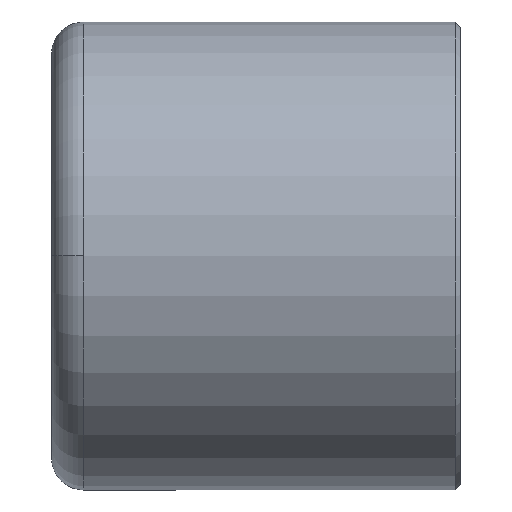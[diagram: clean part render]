
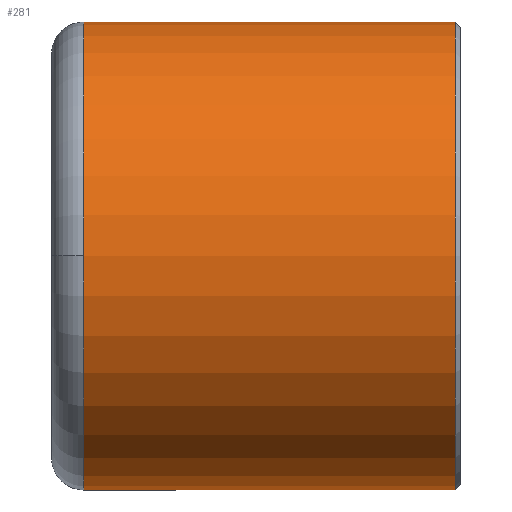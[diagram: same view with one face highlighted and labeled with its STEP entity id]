
A CAD part, top view. The second image highlights one B-rep face of the part: STEP entity #281.
In plain terms, the highlighted cylindrical face has radius 8.7 mm (diameter 17.4 mm), a partial arc.
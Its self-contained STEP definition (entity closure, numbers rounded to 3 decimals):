
#78=CARTESIAN_POINT('',(-6.75,0.,8.7));
#79=VERTEX_POINT('',#78);
#87=CARTESIAN_POINT('',(-6.75,8.7,0.0));
#88=VERTEX_POINT('',#87);
#89=CARTESIAN_POINT('',(-6.75,0.,0.0));
#90=DIRECTION('',(1.0,0.0,0.0));
#91=DIRECTION('',(0.0,1.0,0.0));
#92=AXIS2_PLACEMENT_3D('',#89,#90,#91);
#93=CIRCLE('',#92,8.7);
#94=EDGE_CURVE('',#88,#79,#93,.T.);
#241=CARTESIAN_POINT('',(0.25,0.,0.0));
#242=DIRECTION('',(1.0,0.,0.0));
#243=DIRECTION('',(0.0,1.0,0.0));
#244=AXIS2_PLACEMENT_3D('',#241,#242,#243);
#245=CYLINDRICAL_SURFACE('',#244,8.7);
#246=CARTESIAN_POINT('',(7.05,8.7,0.));
#247=VERTEX_POINT('',#246);
#248=CARTESIAN_POINT('',(-6.75,8.7,0.0));
#249=DIRECTION('',(1.0,0.0,0.0));
#250=VECTOR('',#249,13.8);
#251=LINE('',#248,#250);
#252=EDGE_CURVE('',#88,#247,#251,.T.);
#253=ORIENTED_EDGE('',*,*,#252,.F.);
#254=ORIENTED_EDGE('',*,*,#94,.T.);
#255=CARTESIAN_POINT('',(-6.75,-8.7,0.));
#256=VERTEX_POINT('',#255);
#257=CARTESIAN_POINT('',(-6.75,0.,0.0));
#258=DIRECTION('',(1.0,0.0,0.0));
#259=DIRECTION('',(0.0,1.0,0.0));
#260=AXIS2_PLACEMENT_3D('',#257,#258,#259);
#261=CIRCLE('',#260,8.7);
#262=EDGE_CURVE('',#79,#256,#261,.T.);
#263=ORIENTED_EDGE('',*,*,#262,.T.);
#264=CARTESIAN_POINT('',(7.05,-8.7,0.));
#265=VERTEX_POINT('',#264);
#266=CARTESIAN_POINT('',(7.05,-8.7,0.));
#267=DIRECTION('',(-1.0,0.0,0.0));
#268=VECTOR('',#267,13.8);
#269=LINE('',#266,#268);
#270=EDGE_CURVE('',#265,#256,#269,.T.);
#271=ORIENTED_EDGE('',*,*,#270,.F.);
#272=CARTESIAN_POINT('',(7.05,0.,0.0));
#273=DIRECTION('',(1.0,0.0,0.0));
#274=DIRECTION('',(0.0,1.0,0.0));
#275=AXIS2_PLACEMENT_3D('',#272,#273,#274);
#276=CIRCLE('',#275,8.7);
#277=EDGE_CURVE('',#247,#265,#276,.T.);
#278=ORIENTED_EDGE('',*,*,#277,.F.);
#279=EDGE_LOOP('',(#253,#254,#263,#271,#278));
#280=FACE_OUTER_BOUND('',#279,.T.);
#281=ADVANCED_FACE('',(#280),#245,.T.);
